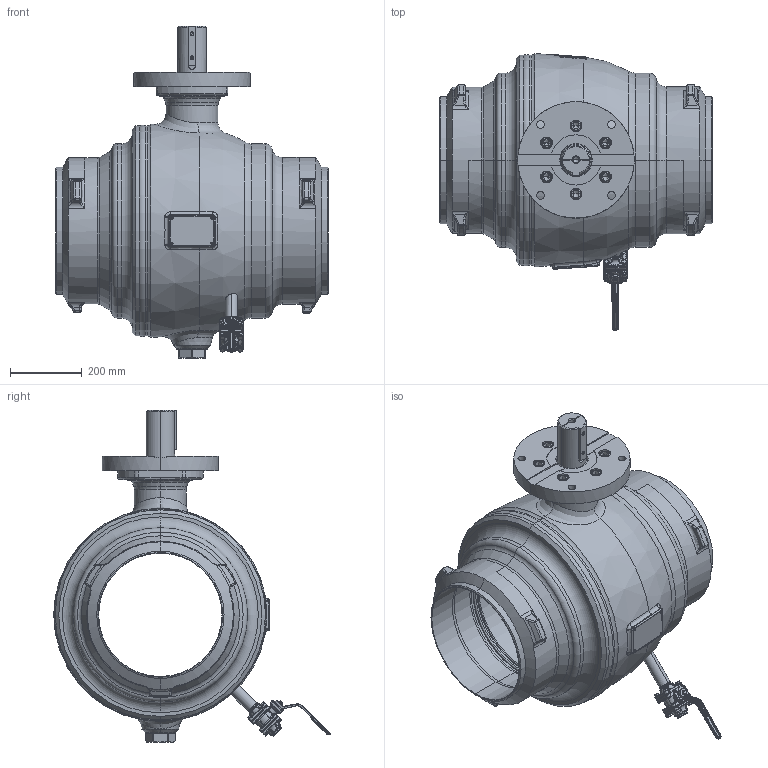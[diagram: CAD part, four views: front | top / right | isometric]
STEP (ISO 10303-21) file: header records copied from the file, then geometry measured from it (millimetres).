
FILE_DESCRIPTION((''),'2;1');
FILE_NAME('KHSVI_350_FR_WE_ENTL','2026-01-27T14:23:59',('schwaba'),('KLINGER'),'CREO PARAMETRIC BY PTC INC, 2023014','CREO PARAMETRIC BY PTC INC, 2023014','');
FILE_SCHEMA(('CONFIG_CONTROL_DESIGN'));
Products named in the file (1): KHSVI_350_FR_WE_ENTL
Bounding box: 762 x 772.35 x 927 mm (x, y, z)
Volume: 53543531.7 mm3; surface area: 5202376.6 mm2
Topology: 8 solids, 8 shells, 3227 faces, 7784 edges, 4670 vertices
Faces by surface type: plane 1011, cylinder 807, bspline 495, torus 479, cone 356, sphere 58, revolution 16, extrusion 5
Entity records: 191735 total; most frequent: CARTESIAN_POINT 120577, ORIENTED_EDGE 15488, DIRECTION 14288, EDGE_CURVE 7744, AXIS2_PLACEMENT_3D 6007, VERTEX_POINT 4670, EDGE_LOOP 3444, CIRCLE 3293
